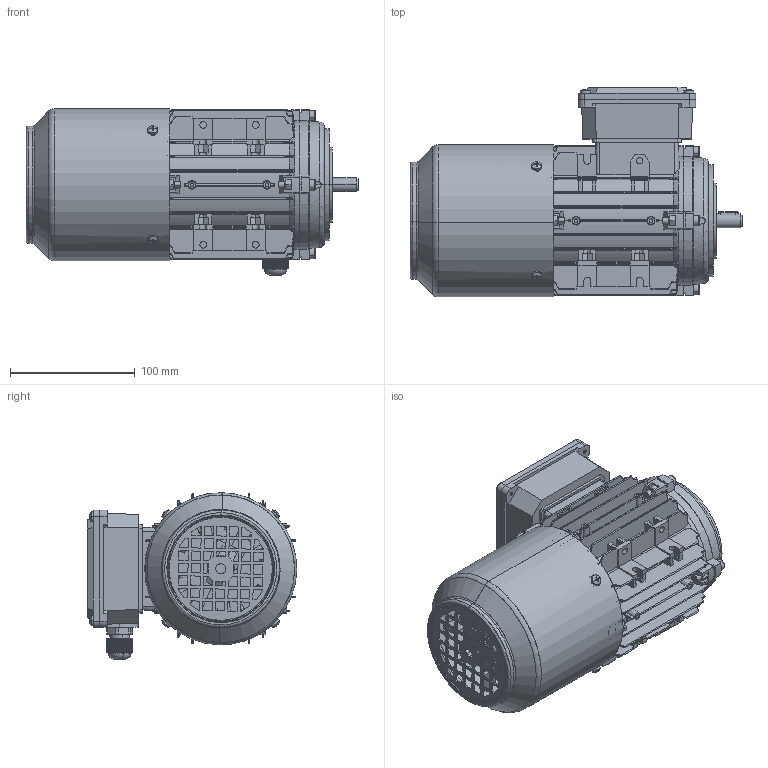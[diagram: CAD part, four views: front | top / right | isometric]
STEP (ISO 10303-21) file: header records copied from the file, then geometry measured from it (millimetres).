
FILE_DESCRIPTION (( 'STEP AP203' ), '1' );
FILE_NAME ('TB63 B14（风罩不带手柄孔）.STEP', '2021-10-20T06:41:06', ( '' ), ( '' ), 'SwSTEP 2.0', 'SolidWorks 2014', '' );
FILE_SCHEMA (( 'CONFIG_CONTROL_DESIGN' ));
Length unit declared in the file: millimetre
Products named in the file (15): MS63-71 陔諉盄碟釱; TAN63 B14裔; TB63 蛌粣; TB63瑞欶ㄗ祥湍忒梟謂ㄘ; TAN63 儂褲; Hexagon nuts grade C GB_GB_FASTENER_NUT_SNC1 M5-N; MS63-71 陔諉盄碟裔; 怢宒63瑞珔囀傍; Cross recessed thread forming screws GB_GB_CROSS_SCREWS_TYPE138 M4X10-N; TB63 B14（风罩不带手柄孔）; TB63 綴裔; Hexagon socket head cap screws GB_GB_FASTENER_SCREWS_HSHCS M5X25-N; 堤盄蹟杶M16; 怢宒63瑞珔; Plain parallel keys_GB_CONNECTING_PIECE_KEYS_CSK 4X16
Assembly tree (35 placements, depth 2):
  TB63 B14（风罩不带手柄孔）
    TAN63 儂褲
    TB63 綴裔
    MS63-71 陔諉盄碟釱
    MS63-71 陔諉盄碟裔
    堤盄蹟杶M16
    TB63 蛌粣
    Cross recessed thread forming screws GB_GB_CROSS_SCREWS_TYPE138 M4X10-N  x8
    Plain parallel keys_GB_CONNECTING_PIECE_KEYS_CSK 4X16
    Hexagon nuts grade C GB_GB_FASTENER_NUT_SNC1 M5-N  x8
    Hexagon socket head cap screws GB_GB_FASTENER_SCREWS_HSHCS M5X25-N  x8
    TAN63 B14裔
    怢宒63瑞珔囀傍
    怢宒63瑞珔
    TB63瑞欶ㄗ祥湍忒梟謂ㄘ
Bounding box: 266 x 167.94 x 133.48 mm (x, y, z)
Volume: 488223.8 mm3; surface area: 434386.3 mm2
Topology: 35 solids, 35 shells, 3796 faces, 10022 edges, 6351 vertices
Faces by surface type: plane 1889, cylinder 956, bspline 478, cone 313, torus 140, sphere 20
Entity records: 119389 total; most frequent: CARTESIAN_POINT 38157, ORIENTED_EDGE 17776, DIRECTION 14962, EDGE_CURVE 8888, VERTEX_POINT 5672, AXIS2_PLACEMENT_3D 5199, VECTOR 4564, LINE 4564
